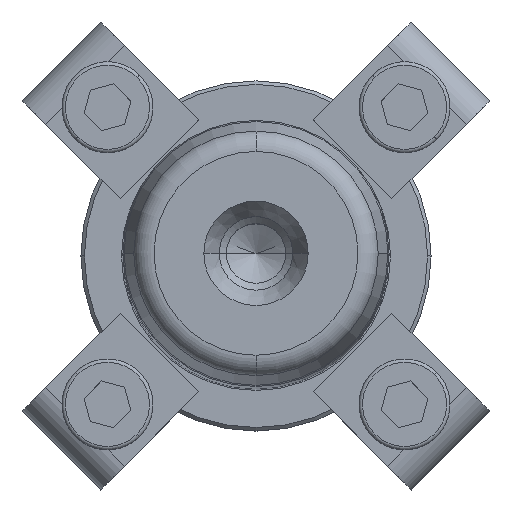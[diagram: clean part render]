
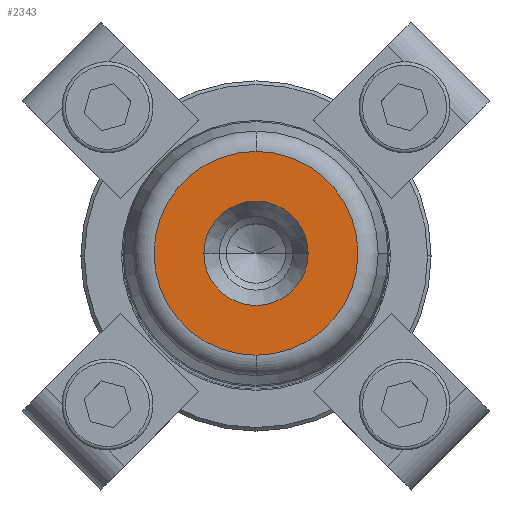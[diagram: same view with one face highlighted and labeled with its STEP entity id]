
A CAD part, top view. The second image highlights one B-rep face of the part: STEP entity #2343.
In plain terms, the highlighted planar face has unit normal (0, 0, 1).
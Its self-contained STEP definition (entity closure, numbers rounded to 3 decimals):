
#431=CARTESIAN_POINT('',(7.45,0.,220.0));
#432=VERTEX_POINT('',#431);
#439=CARTESIAN_POINT('',(-7.45,0.,220.0));
#440=VERTEX_POINT('',#439);
#441=CARTESIAN_POINT('',(0.0,0.,220.0));
#442=DIRECTION('',(0.0,0.0,1.0));
#443=DIRECTION('',(1.0,0.0,0.0));
#444=AXIS2_PLACEMENT_3D('',#441,#442,#443);
#445=CIRCLE('',#444,7.45);
#446=EDGE_CURVE('',#432,#440,#445,.T.);
#463=CARTESIAN_POINT('',(0.0,-14.554,220.));
#464=VERTEX_POINT('',#463);
#474=CARTESIAN_POINT('',(0.,14.554,220.0));
#475=VERTEX_POINT('',#474);
#476=CARTESIAN_POINT('',(0.0,0.,220.0));
#477=DIRECTION('',(0.0,0.0,1.0));
#478=DIRECTION('',(1.0,0.0,0.0));
#479=AXIS2_PLACEMENT_3D('',#476,#477,#478);
#480=CIRCLE('',#479,14.554);
#481=EDGE_CURVE('',#475,#464,#480,.T.);
#2304=CARTESIAN_POINT('',(14.554,0.,220.));
#2305=VERTEX_POINT('',#2304);
#2306=CARTESIAN_POINT('',(0.0,0.,220.0));
#2307=DIRECTION('',(0.0,0.0,1.0));
#2308=DIRECTION('',(1.0,0.0,0.0));
#2309=AXIS2_PLACEMENT_3D('',#2306,#2307,#2308);
#2310=CIRCLE('',#2309,14.554);
#2311=EDGE_CURVE('',#2305,#475,#2310,.T.);
#2313=CARTESIAN_POINT('',(0.0,0.,220.0));
#2314=DIRECTION('',(0.0,0.0,1.0));
#2315=DIRECTION('',(1.0,0.0,0.0));
#2316=AXIS2_PLACEMENT_3D('',#2313,#2314,#2315);
#2317=CIRCLE('',#2316,14.554);
#2318=EDGE_CURVE('',#464,#2305,#2317,.T.);
#2323=CARTESIAN_POINT('',(11.002,0.,220.0));
#2324=DIRECTION('',(0.0,0.0,1.0));
#2325=DIRECTION('',(0.0,-1.0,0.0));
#2326=AXIS2_PLACEMENT_3D('',#2323,#2324,#2325);
#2327=PLANE('',#2326);
#2328=ORIENTED_EDGE('',*,*,#2311,.T.);
#2329=ORIENTED_EDGE('',*,*,#481,.T.);
#2330=ORIENTED_EDGE('',*,*,#2318,.T.);
#2331=EDGE_LOOP('',(#2328,#2329,#2330));
#2332=FACE_OUTER_BOUND('',#2331,.T.);
#2333=ORIENTED_EDGE('',*,*,#446,.F.);
#2334=CARTESIAN_POINT('',(0.0,0.,220.0));
#2335=DIRECTION('',(0.0,0.0,1.0));
#2336=DIRECTION('',(1.0,0.0,0.0));
#2337=AXIS2_PLACEMENT_3D('',#2334,#2335,#2336);
#2338=CIRCLE('',#2337,7.45);
#2339=EDGE_CURVE('',#440,#432,#2338,.T.);
#2340=ORIENTED_EDGE('',*,*,#2339,.F.);
#2341=EDGE_LOOP('',(#2333,#2340));
#2342=FACE_BOUND('',#2341,.T.);
#2343=ADVANCED_FACE('',(#2332,#2342),#2327,.T.);
